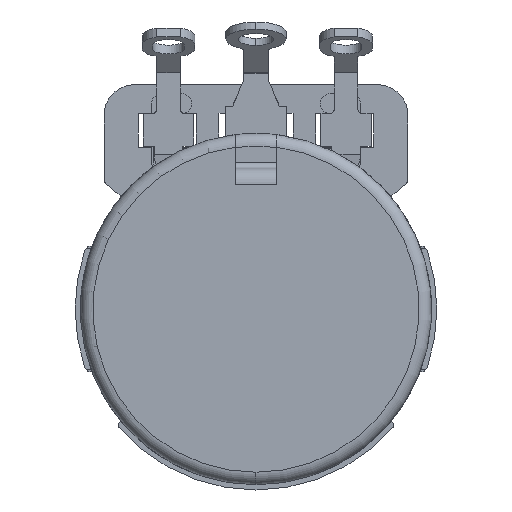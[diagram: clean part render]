
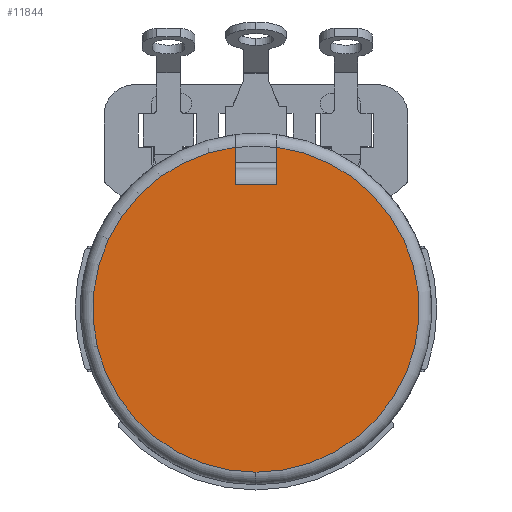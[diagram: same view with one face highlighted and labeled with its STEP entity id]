
A CAD part, front view. The second image highlights one B-rep face of the part: STEP entity #11844.
In plain terms, the highlighted planar face has unit normal (0, -1, 0).
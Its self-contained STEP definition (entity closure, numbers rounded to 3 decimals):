
#629 = DIRECTION ( 'NONE',  ( 0., -1., 0. ) ) ;
#962 = VECTOR ( 'NONE', #25535, 1000. ) ;
#1629 = DIRECTION ( 'NONE',  ( 0., 0., -1. ) ) ;
#1683 = LINE ( 'NONE', #21544, #26301 ) ;
#2499 = ORIENTED_EDGE ( 'NONE', *, *, #21146, .F. ) ;
#3045 = AXIS2_PLACEMENT_3D ( 'NONE', #12322, #10032, #6030 ) ;
#3350 = AXIS2_PLACEMENT_3D ( 'NONE', #9666, #19505, #1629 ) ;
#3668 = VERTEX_POINT ( 'NONE', #12831 ) ;
#3775 = EDGE_CURVE ( 'NONE', #26039, #11213, #1683, .T. ) ;
#4671 = LINE ( 'NONE', #17280, #11674 ) ;
#5187 = PLANE ( 'NONE',  #12952 ) ;
#5278 = CARTESIAN_POINT ( 'NONE',  ( 1.397, 0., 12.522 ) ) ;
#6030 = DIRECTION ( 'NONE',  ( 0., 0., -1. ) ) ;
#6732 = CARTESIAN_POINT ( 'NONE',  ( 0., 0., -10.973 ) ) ;
#7146 = ORIENTED_EDGE ( 'NONE', *, *, #12213, .T. ) ;
#8039 = ORIENTED_EDGE ( 'NONE', *, *, #3775, .F. ) ;
#8650 = CARTESIAN_POINT ( 'NONE',  ( -1.397, 0., 8.382 ) ) ;
#8892 = CIRCLE ( 'NONE', #3350, 10.973 ) ;
#9666 = CARTESIAN_POINT ( 'NONE',  ( 0., 0., 0. ) ) ;
#10032 = DIRECTION ( 'NONE',  ( 0., -1., 0. ) ) ;
#10399 = VERTEX_POINT ( 'NONE', #6732 ) ;
#10816 = CARTESIAN_POINT ( 'NONE',  ( -5.207, 0., 0. ) ) ;
#11213 = VERTEX_POINT ( 'NONE', #8650 ) ;
#11674 = VECTOR ( 'NONE', #25452, 1000. ) ;
#11844 = ADVANCED_FACE ( 'NONE', ( #17024 ), #5187, .T. ) ;
#11878 = DIRECTION ( 'NONE',  ( 0., 0., -1. ) ) ;
#12147 = ORIENTED_EDGE ( 'NONE', *, *, #24807, .T. ) ;
#12190 = CARTESIAN_POINT ( 'NONE',  ( -1.397, 0., 10.884 ) ) ;
#12213 = EDGE_CURVE ( 'NONE', #26039, #10399, #8892, .T. ) ;
#12322 = CARTESIAN_POINT ( 'NONE',  ( 0., 0., 0. ) ) ;
#12831 = CARTESIAN_POINT ( 'NONE',  ( 1.397, 0., 10.884 ) ) ;
#12952 = AXIS2_PLACEMENT_3D ( 'NONE', #10816, #629, #19180 ) ;
#13198 = LINE ( 'NONE', #5278, #962 ) ;
#13329 = VERTEX_POINT ( 'NONE', #15332 ) ;
#14625 = CIRCLE ( 'NONE', #3045, 10.973 ) ;
#15332 = CARTESIAN_POINT ( 'NONE',  ( 1.397, 0., 8.382 ) ) ;
#17024 = FACE_OUTER_BOUND ( 'NONE', #17568, .T. ) ;
#17280 = CARTESIAN_POINT ( 'NONE',  ( -1.397, 0., 8.382 ) ) ;
#17568 = EDGE_LOOP ( 'NONE', ( #2499, #19683, #8039, #7146, #12147 ) ) ;
#19180 = DIRECTION ( 'NONE',  ( 0., 0., -1. ) ) ;
#19505 = DIRECTION ( 'NONE',  ( 0., -1., 0. ) ) ;
#19683 = ORIENTED_EDGE ( 'NONE', *, *, #26127, .T. ) ;
#21146 = EDGE_CURVE ( 'NONE', #13329, #3668, #13198, .T. ) ;
#21544 = CARTESIAN_POINT ( 'NONE',  ( -1.397, 0., 12.522 ) ) ;
#24807 = EDGE_CURVE ( 'NONE', #10399, #3668, #14625, .T. ) ;
#25452 = DIRECTION ( 'NONE',  ( -1., 0., 0. ) ) ;
#25535 = DIRECTION ( 'NONE',  ( 0., 0., 1. ) ) ;
#26039 = VERTEX_POINT ( 'NONE', #12190 ) ;
#26127 = EDGE_CURVE ( 'NONE', #13329, #11213, #4671, .T. ) ;
#26301 = VECTOR ( 'NONE', #11878, 1000. ) ;
